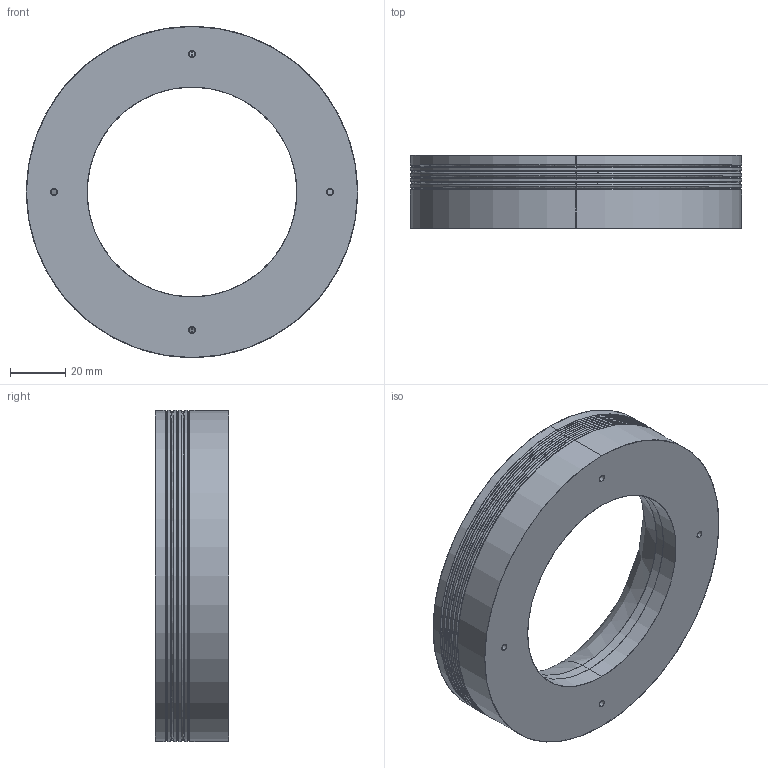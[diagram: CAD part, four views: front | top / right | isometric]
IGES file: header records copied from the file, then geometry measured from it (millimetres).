
Start section: SolidWorks IGES file using analytic representation for surfaces
Global section: file name: D:\SynologyDrive\新款图纸\非标定制\高角度无影光\RIH120\ED\RIH120.IGS,15HSolidWorks; native system: 2021; preprocessor: SolidWorks 2021; author: Administrator; date: 220322.093129; units: millimetre
Bounding box: 120 x 26.5 x 120 mm (x, y, z)
Surface area: 61898.2 mm2 (no closed solid volume)
Topology: 0 solids, 0 shells, 91 faces, 1984 edges, 1984 vertices
Faces by surface type: revolution 56, bspline 35
